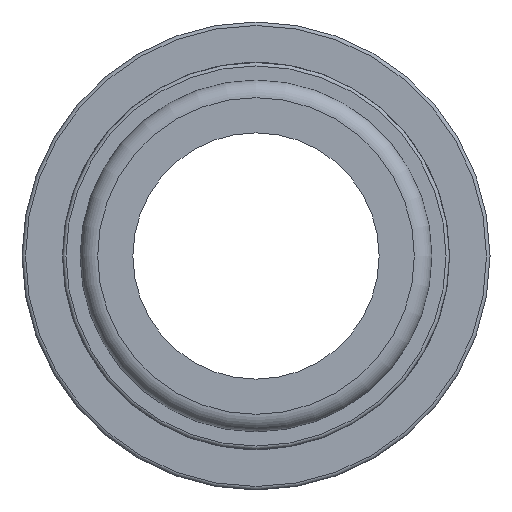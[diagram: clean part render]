
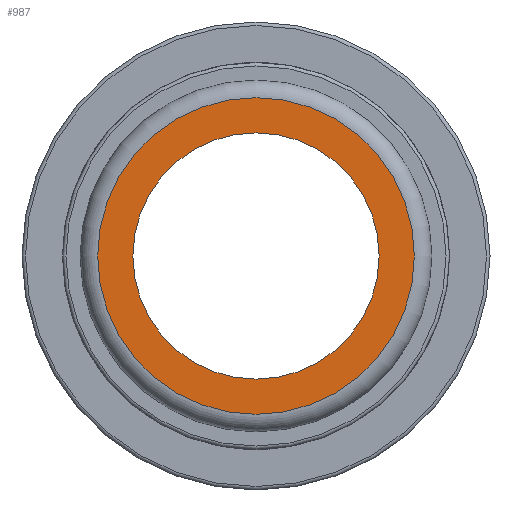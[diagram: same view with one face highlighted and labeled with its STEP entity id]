
A CAD part, left-side view. The second image highlights one B-rep face of the part: STEP entity #987.
In plain terms, the highlighted planar face has unit normal (-1, 0, 0).
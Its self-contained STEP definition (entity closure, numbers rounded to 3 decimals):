
#181=PLANE('',#1101);
#217=FACE_BOUND('',#343,.T.);
#273=FACE_OUTER_BOUND('',#342,.T.);
#342=EDGE_LOOP('',(#913));
#343=EDGE_LOOP('',(#914));
#402=CIRCLE('',#1099,33.833);
#404=CIRCLE('',#1102,26.314);
#500=VERTEX_POINT('',#1872);
#502=VERTEX_POINT('',#1877);
#640=EDGE_CURVE('',#500,#500,#402,.T.);
#642=EDGE_CURVE('',#502,#502,#404,.T.);
#913=ORIENTED_EDGE('',*,*,#640,.F.);
#914=ORIENTED_EDGE('',*,*,#642,.T.);
#987=ADVANCED_FACE('',(#273,#217),#181,.T.);
#1099=AXIS2_PLACEMENT_3D('',#1873,#1380,#1381);
#1101=AXIS2_PLACEMENT_3D('',#1876,#1384,#1385);
#1102=AXIS2_PLACEMENT_3D('',#1878,#1386,#1387);
#1380=DIRECTION('center_axis',(1.,0.,0.));
#1381=DIRECTION('ref_axis',(0.,-1.,0.));
#1384=DIRECTION('center_axis',(-1.,0.,0.));
#1385=DIRECTION('ref_axis',(0.,0.,1.));
#1386=DIRECTION('center_axis',(1.,0.,0.));
#1387=DIRECTION('ref_axis',(0.,0.,-1.));
#1872=CARTESIAN_POINT('',(-134.,33.833,0.));
#1873=CARTESIAN_POINT('Origin',(-134.,0.,0.));
#1876=CARTESIAN_POINT('Origin',(-134.,37.592,0.));
#1877=CARTESIAN_POINT('',(-134.,26.314,0.));
#1878=CARTESIAN_POINT('Origin',(-134.,0.,0.));
